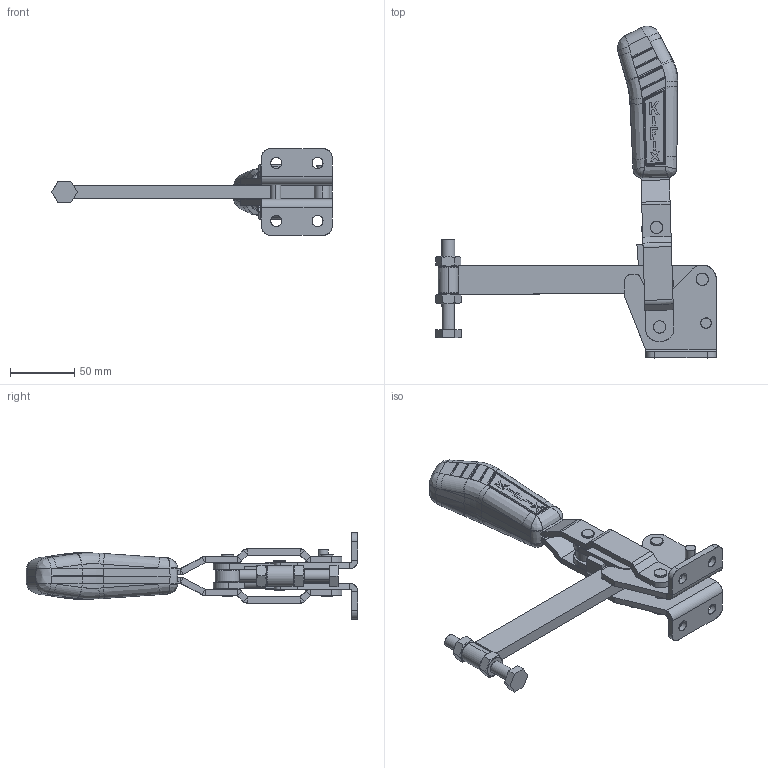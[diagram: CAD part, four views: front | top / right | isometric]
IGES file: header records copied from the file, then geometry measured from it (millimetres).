
Start section: SolidWorks IGES file using analytic representation for surfaces
Global section: file name: C:\Projetos\Grampos\KF-111\KF-111 DS\KF-111 DS.IGS; native system: SolidWorks 2013; preprocessor: SolidWorks 2013; author: Ricardo; date: 140728.155850; units: millimetre
Bounding box: 217.8 x 257.54 x 67 mm (x, y, z)
Surface area: 100691.1 mm2 (no closed solid volume)
Topology: 0 solids, 0 shells, 761 faces, 8218 edges, 8191 vertices
Faces by surface type: bspline 444, revolution 317
